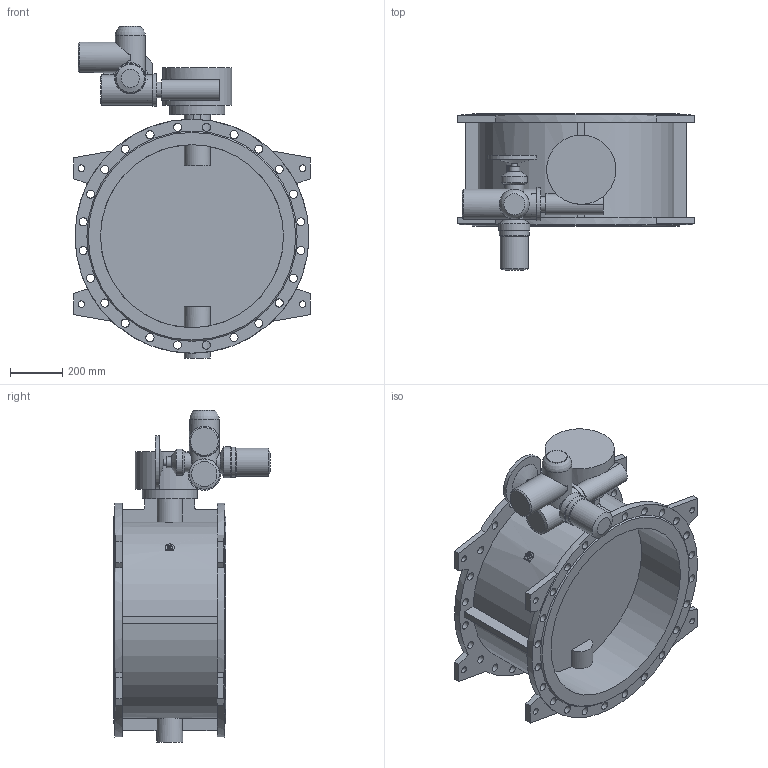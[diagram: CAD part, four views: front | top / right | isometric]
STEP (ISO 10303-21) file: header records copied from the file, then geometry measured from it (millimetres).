
FILE_DESCRIPTION(('STEP AP203'), '1');
FILE_NAME('Çàòâîð 023F.Z DN700 PN10 + ðåäóêòîð + ÌÒ903.À07', '', ('UNSPECIFIED'), ('UNSPECIFIED'), 'ASCON STEP Converter 1.6', 'ASCON Math Kernel', '');
FILE_SCHEMA(('CONFIG_CONTROL_DESIGN'));
Length unit declared in the file: millimetre
Bounding box: 906 x 600.5 x 1270 mm (x, y, z)
Volume: 79642056.2 mm3; surface area: 4584170.9 mm2
Topology: 1 solids, 1 shells, 237 faces, 585 edges, 384 vertices
Faces by surface type: cylinder 116, plane 109, cone 11, torus 1
Full cylindrical faces by diameter (mm): 8.5 x4, 12 x4, 18.5 x4, 23 x4, 24 x1, 25 x8, 31 x48, 42 x1, 60 x1, 66 x1, 72 x1, 80 x2, 100 x2, 108 x1, 114 x1, 115 x1, 116 x2, 119 x1, 125 x1, 210 x1, 265 x1, 700 x2, 895 x2
Entity records: 10809 total; most frequent: CARTESIAN_POINT 3318, DIRECTION 1157, ORIENTED_EDGE 950, EDGE_LOOP 490, AXIS2_PLACEMENT_3D 483, EDGE_CURVE 475, VERTEX_POINT 383, FACE_BOUND 287
